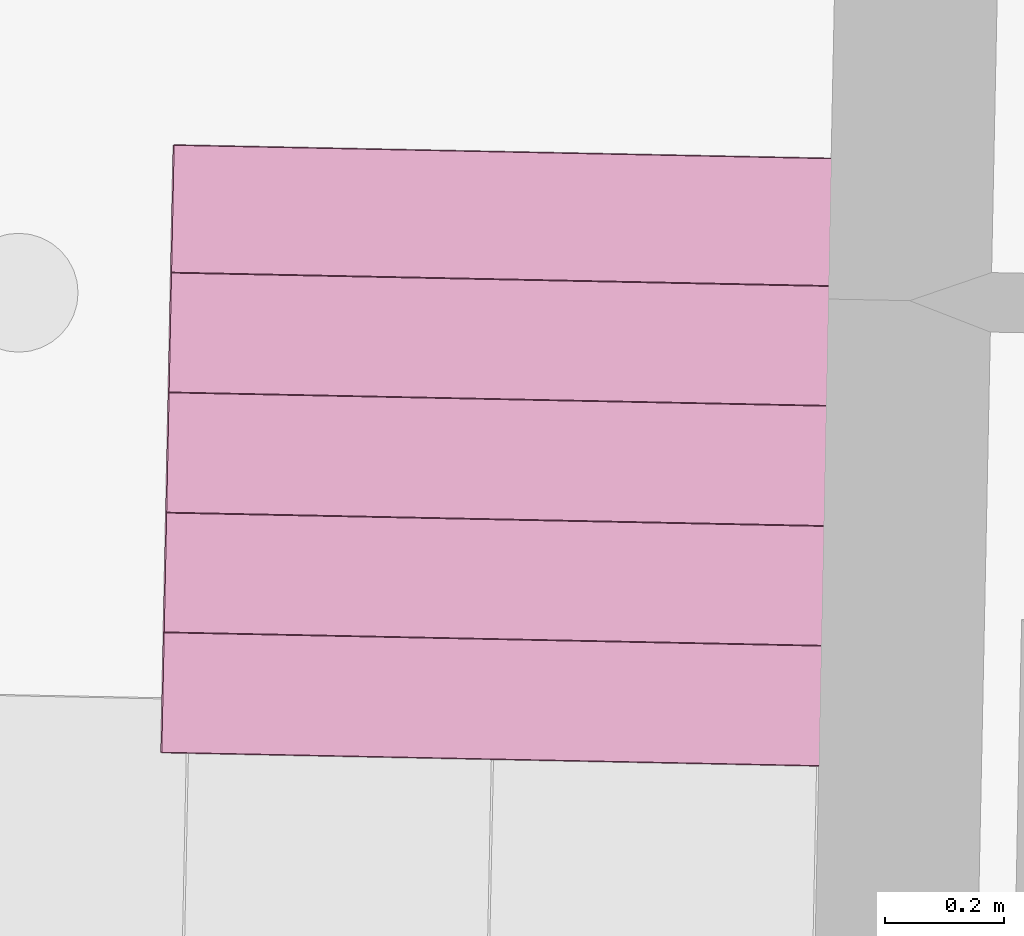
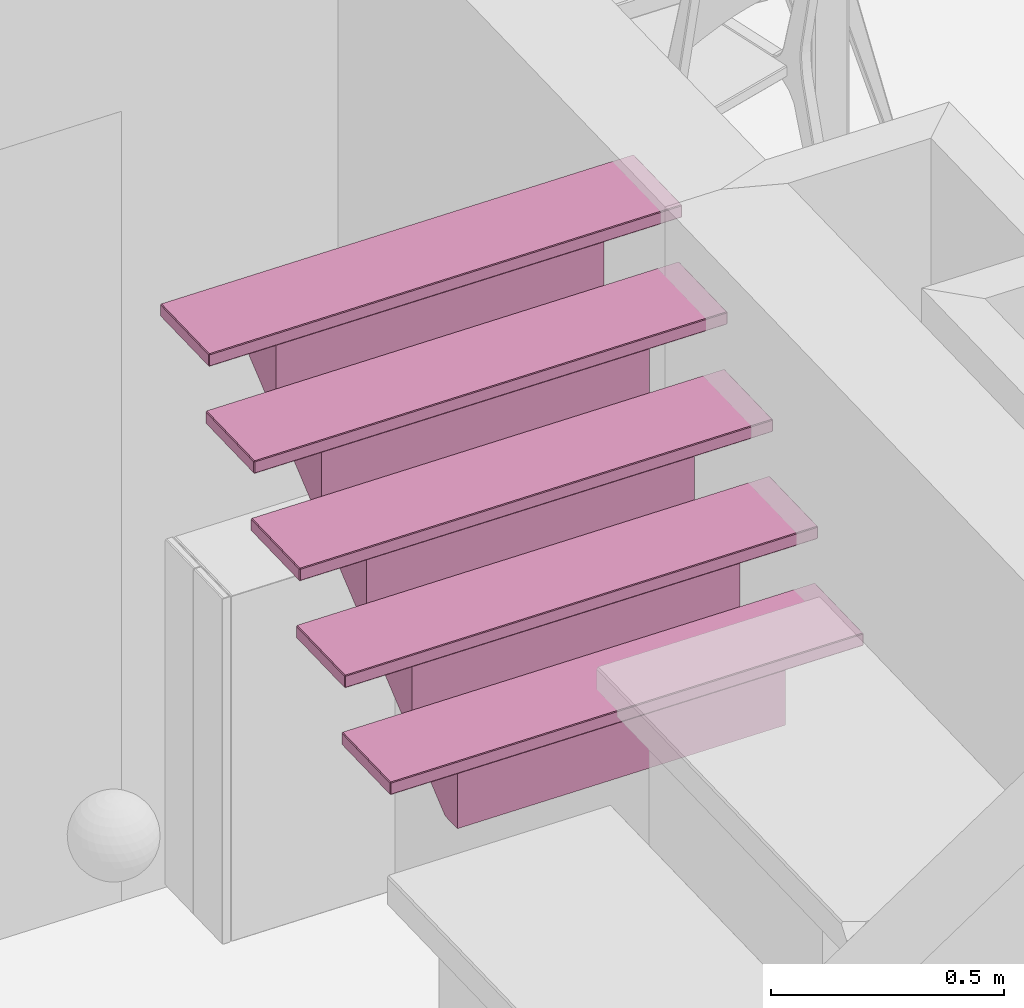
# One storey, part 4 of 8: 1 furnishing.
"""IFC2X3 building model written with IfcOpenShell, lengths in metres."""

from ifc_helpers import new_model, si_unit, frame, origin_with_axes, place, context, project, spatial, faceted_brep, type_object, element, save


model = new_model("IFC2X3")

# Units and contexts
model_context = context("Model", 3, precision=1e-05, world=origin_with_axes())
ifc_project = project(units=[si_unit("AREAUNIT", "SQUARE_METRE"), si_unit("LENGTHUNIT", "METRE")], contexts=[model_context])

# Site, building, storey, space
site_placement = place(None, origin_with_axes())
site = spatial("IfcSite", under=ifc_project, at=site_placement, Name="Site", CompositionType="ELEMENT")
building_placement = place(site_placement, origin_with_axes())
building = spatial("IfcBuilding", under=site, at=building_placement, Name="Building", CompositionType="ELEMENT")
storey_placement = place(building_placement, frame((0.0, 0.0, 2.8867046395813), z_axis=(0.0, 0.0, 1.0), x_axis=(1.0, 0.0, 0.0)))
storey = spatial("IfcBuildingStorey", under=building, at=storey_placement, Name="Story 1", CompositionType="ELEMENT", Elevation=2.8867045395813)
space_placement = place(storey_placement, frame((-5.69888454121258, -2.58056097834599, 0.0), z_axis=(0.0, 0.0, 1.0), x_axis=(1.0, 0.0, 0.0)))
space = spatial("IfcSpace", under=storey, at=space_placement, Name="009", CompositionType="ELEMENT", InteriorOrExteriorSpace="INTERNAL")

# Furnishing
furniture_type = type_object("IfcFurnitureType", Name="ebbc345f-75c7-47a5-aec1-dbdd7c84317c")
furnishing_placement = place(space_placement, frame((3.04485040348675, -0.346220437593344, 2.10144023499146), z_axis=(0.0, 0.0, 0.999999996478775), x_axis=(-0.0203696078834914, -0.999792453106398, 0.0)))
element("IfcFurnishingElement", 1, at=furnishing_placement, inside=space, type_object=furniture_type, Name="STAIRS", ObjectType="STAIRS", context=model_context, shape_type="Brep", body=[
    faceted_brep([(0.5117, 0.5785, -0.2218), (0.5117, -0.5785, -0.2218), (0.5117, 0.5785, -0.2507), (0.5117, -0.5785, -0.2507), (0.5117, 0.5785, -0.2507), (0.5117, -0.5785, -0.2218), (0.5103, -0.5806, -0.2218), (0.297, -0.5806, -0.2218), (0.5103, -0.5806, -0.2507), (0.297, -0.5806, -0.2507), (0.5103, -0.5806, -0.2507), (0.297, -0.5806, -0.2218), (0.2955, -0.5785, -0.2218), (0.2955, 0.5785, -0.2218), (0.2955, -0.5785, -0.2507), (0.2955, 0.5785, -0.2507), (0.2955, -0.5785, -0.2507), (0.2955, 0.5785, -0.2218), (0.297, 0.5806, -0.2218), (0.5103, 0.5806, -0.2218), (0.297, 0.5806, -0.2507), (0.5103, 0.5806, -0.2507), (0.297, 0.5806, -0.2507), (0.5103, 0.5806, -0.2218), (0.5103, -0.5785, -0.253), (0.297, -0.5785, -0.253), (0.5103, 0.5785, -0.253), (0.297, 0.5785, -0.253), (0.5103, 0.5785, -0.253), (0.297, -0.5785, -0.253), (0.5103, -0.5785, -0.2196), (0.5103, 0.5785, -0.2196), (0.297, -0.5785, -0.2196), (0.297, 0.5785, -0.2196), (0.297, -0.5785, -0.2196), (0.5103, 0.5785, -0.2196), (0.5103, 0.5806, -0.2507), (0.5117, 0.5785, -0.2507), (0.5103, 0.5785, -0.253), (0.5103, -0.5806, -0.2507), (0.5103, -0.5785, -0.253), (0.5117, -0.5785, -0.2507), (0.2955, -0.5785, -0.2507), (0.297, -0.5785, -0.253), (0.297, -0.5806, -0.2507), (0.2955, 0.5785, -0.2507), (0.297, 0.5806, -0.2507), (0.297, 0.5785, -0.253), (0.5103, 0.5785, -0.2196), (0.5117, 0.5785, -0.2218), (0.5103, 0.5806, -0.2218), (0.5103, -0.5785, -0.2196), (0.5103, -0.5806, -0.2218), (0.5117, -0.5785, -0.2218), (0.297, -0.5785, -0.2196), (0.2955, -0.5785, -0.2218), (0.297, -0.5806, -0.2218), (0.297, 0.5785, -0.2196), (0.297, 0.5806, -0.2218), (0.2955, 0.5785, -0.2218), (0.5103, 0.5785, -0.253), (0.5117, 0.5785, -0.2507), (0.5103, -0.5785, -0.253), (0.5117, -0.5785, -0.2507), (0.5103, -0.5785, -0.253), (0.5117, 0.5785, -0.2507), (0.5103, -0.5806, -0.2507), (0.5117, -0.5785, -0.2507), (0.5103, -0.5806, -0.2218), (0.5117, -0.5785, -0.2218), (0.5103, -0.5806, -0.2218), (0.5117, -0.5785, -0.2507), (0.5103, -0.5785, -0.2196), (0.5117, -0.5785, -0.2218), (0.5103, 0.5785, -0.2196), (0.5117, 0.5785, -0.2218), (0.5103, 0.5785, -0.2196), (0.5117, -0.5785, -0.2218), (0.5103, 0.5806, -0.2218), (0.5117, 0.5785, -0.2218), (0.5103, 0.5806, -0.2507), (0.5117, 0.5785, -0.2507), (0.5103, 0.5806, -0.2507), (0.5117, 0.5785, -0.2218), (0.5103, -0.5785, -0.253), (0.5103, -0.5806, -0.2507), (0.297, -0.5785, -0.253), (0.297, -0.5806, -0.2507), (0.297, -0.5785, -0.253), (0.5103, -0.5806, -0.2507), (0.2955, -0.5785, -0.2507), (0.297, -0.5806, -0.2507), (0.2955, -0.5785, -0.2218), (0.297, -0.5806, -0.2218), (0.2955, -0.5785, -0.2218), (0.297, -0.5806, -0.2507), (0.297, -0.5785, -0.2196), (0.297, -0.5806, -0.2218), (0.5103, -0.5785, -0.2196), (0.5103, -0.5806, -0.2218), (0.5103, -0.5785, -0.2196), (0.297, -0.5806, -0.2218), (0.297, -0.5785, -0.253), (0.2955, -0.5785, -0.2507), (0.297, 0.5785, -0.253), (0.2955, 0.5785, -0.2507), (0.297, 0.5785, -0.253), (0.2955, -0.5785, -0.2507), (0.297, 0.5806, -0.2507), (0.2955, 0.5785, -0.2507), (0.297, 0.5806, -0.2218), (0.2955, 0.5785, -0.2218), (0.297, 0.5806, -0.2218), (0.2955, 0.5785, -0.2507), (0.297, 0.5785, -0.2196), (0.2955, 0.5785, -0.2218), (0.297, -0.5785, -0.2196), (0.2955, -0.5785, -0.2218), (0.297, -0.5785, -0.2196), (0.2955, 0.5785, -0.2218), (0.297, 0.5785, -0.253), (0.297, 0.5806, -0.2507), (0.5103, 0.5785, -0.253), (0.5103, 0.5806, -0.2507), (0.5103, 0.5785, -0.253), (0.297, 0.5806, -0.2507), (0.5103, 0.5785, -0.2196), (0.5103, 0.5806, -0.2218), (0.297, 0.5785, -0.2196), (0.297, 0.5806, -0.2218), (0.297, 0.5785, -0.2196), (0.5103, 0.5806, -0.2218), (0.3094, 0.5785, -0.0658), (0.3094, -0.5785, -0.0658), (0.3094, 0.5785, -0.0947), (0.3094, -0.5785, -0.0947), (0.3094, 0.5785, -0.0947), (0.3094, -0.5785, -0.0658), (0.308, -0.5806, -0.0658), (0.0946, -0.5806, -0.0658), (0.308, -0.5806, -0.0947), (0.0946, -0.5806, -0.0947), (0.308, -0.5806, -0.0947), (0.0946, -0.5806, -0.0658), (0.0932, -0.5785, -0.0658), (0.0932, 0.5785, -0.0658), (0.0932, -0.5785, -0.0947), (0.0932, 0.5785, -0.0947), (0.0932, -0.5785, -0.0947), (0.0932, 0.5785, -0.0658), (0.0946, 0.5806, -0.0658), (0.308, 0.5806, -0.0658), (0.0946, 0.5806, -0.0947), (0.308, 0.5806, -0.0947), (0.0946, 0.5806, -0.0947), (0.308, 0.5806, -0.0658), (0.308, -0.5785, -0.0969), (0.0946, -0.5785, -0.0969), (0.308, 0.5785, -0.0969), (0.0946, 0.5785, -0.0969), (0.308, 0.5785, -0.0969), (0.0946, -0.5785, -0.0969), (0.308, -0.5785, -0.0636), (0.308, 0.5785, -0.0636), (0.0946, -0.5785, -0.0636), (0.0946, 0.5785, -0.0636), (0.0946, -0.5785, -0.0636), (0.308, 0.5785, -0.0636), (0.308, 0.5806, -0.0947), (0.3094, 0.5785, -0.0947), (0.308, 0.5785, -0.0969), (0.308, -0.5806, -0.0947), (0.308, -0.5785, -0.0969), (0.3094, -0.5785, -0.0947), (0.0932, -0.5785, -0.0947), (0.0946, -0.5785, -0.0969), (0.0946, -0.5806, -0.0947), (0.0932, 0.5785, -0.0947), (0.0946, 0.5806, -0.0947), (0.0946, 0.5785, -0.0969), (0.308, 0.5785, -0.0636), (0.3094, 0.5785, -0.0658), (0.308, 0.5806, -0.0658), (0.308, -0.5785, -0.0636), (0.308, -0.5806, -0.0658), (0.3094, -0.5785, -0.0658), (0.0946, -0.5785, -0.0636), (0.0932, -0.5785, -0.0658), (0.0946, -0.5806, -0.0658), (0.0946, 0.5785, -0.0636), (0.0946, 0.5806, -0.0658), (0.0932, 0.5785, -0.0658), (0.308, 0.5785, -0.0969), (0.3094, 0.5785, -0.0947), (0.308, -0.5785, -0.0969), (0.3094, -0.5785, -0.0947), (0.308, -0.5785, -0.0969), (0.3094, 0.5785, -0.0947), (0.308, -0.5806, -0.0947), (0.3094, -0.5785, -0.0947), (0.308, -0.5806, -0.0658), (0.3094, -0.5785, -0.0658), (0.308, -0.5806, -0.0658), (0.3094, -0.5785, -0.0947), (0.308, -0.5785, -0.0636), (0.3094, -0.5785, -0.0658), (0.308, 0.5785, -0.0636), (0.3094, 0.5785, -0.0658), (0.308, 0.5785, -0.0636), (0.3094, -0.5785, -0.0658), (0.308, 0.5806, -0.0658), (0.3094, 0.5785, -0.0658), (0.308, 0.5806, -0.0947), (0.3094, 0.5785, -0.0947), (0.308, 0.5806, -0.0947), (0.3094, 0.5785, -0.0658), (0.308, -0.5785, -0.0969), (0.308, -0.5806, -0.0947), (0.0946, -0.5785, -0.0969), (0.0946, -0.5806, -0.0947), (0.0946, -0.5785, -0.0969), (0.308, -0.5806, -0.0947), (0.0932, -0.5785, -0.0947), (0.0946, -0.5806, -0.0947), (0.0932, -0.5785, -0.0658), (0.0946, -0.5806, -0.0658), (0.0932, -0.5785, -0.0658), (0.0946, -0.5806, -0.0947), (0.0946, -0.5785, -0.0636), (0.0946, -0.5806, -0.0658), (0.308, -0.5785, -0.0636), (0.308, -0.5806, -0.0658), (0.308, -0.5785, -0.0636), (0.0946, -0.5806, -0.0658), (0.0946, -0.5785, -0.0969), (0.0932, -0.5785, -0.0947), (0.0946, 0.5785, -0.0969), (0.0932, 0.5785, -0.0947), (0.0946, 0.5785, -0.0969), (0.0932, -0.5785, -0.0947), (0.0946, 0.5806, -0.0947), (0.0932, 0.5785, -0.0947), (0.0946, 0.5806, -0.0658), (0.0932, 0.5785, -0.0658), (0.0946, 0.5806, -0.0658), (0.0932, 0.5785, -0.0947), (0.0946, 0.5785, -0.0636), (0.0932, 0.5785, -0.0658), (0.0946, -0.5785, -0.0636), (0.0932, -0.5785, -0.0658), (0.0946, -0.5785, -0.0636), (0.0932, 0.5785, -0.0658), (0.0946, 0.5785, -0.0969), (0.0946, 0.5806, -0.0947), (0.308, 0.5785, -0.0969), (0.308, 0.5806, -0.0947), (0.308, 0.5785, -0.0969), (0.0946, 0.5806, -0.0947), (0.308, 0.5785, -0.0636), (0.308, 0.5806, -0.0658), (0.0946, 0.5785, -0.0636), (0.0946, 0.5806, -0.0658), (0.0946, 0.5785, -0.0636), (0.308, 0.5806, -0.0658), (0.1081, 0.5785, 0.0912), (0.1081, -0.5785, 0.0912), (0.1081, 0.5785, 0.0623), (0.1081, -0.5785, 0.0623), (0.1081, 0.5785, 0.0623), (0.1081, -0.5785, 0.0912), (0.1066, -0.5806, 0.0912), (-0.1067, -0.5806, 0.0912), (0.1066, -0.5806, 0.0623), (-0.1067, -0.5806, 0.0623), (0.1066, -0.5806, 0.0623), (-0.1067, -0.5806, 0.0912), (-0.1081, -0.5785, 0.0912), (-0.1081, 0.5785, 0.0912), (-0.1081, -0.5785, 0.0623), (-0.1081, 0.5785, 0.0623), (-0.1081, -0.5785, 0.0623), (-0.1081, 0.5785, 0.0912), (-0.1067, 0.5806, 0.0912), (0.1066, 0.5806, 0.0912), (-0.1067, 0.5806, 0.0623), (0.1066, 0.5806, 0.0623), (-0.1067, 0.5806, 0.0623), (0.1066, 0.5806, 0.0912), (0.1066, -0.5785, 0.0601), (-0.1067, -0.5785, 0.0601), (0.1066, 0.5785, 0.0601), (-0.1067, 0.5785, 0.0601), (0.1066, 0.5785, 0.0601), (-0.1067, -0.5785, 0.0601), (0.1066, -0.5785, 0.0934), (0.1066, 0.5785, 0.0934), (-0.1067, -0.5785, 0.0934), (-0.1067, 0.5785, 0.0934), (-0.1067, -0.5785, 0.0934), (0.1066, 0.5785, 0.0934), (0.1066, 0.5806, 0.0623), (0.1081, 0.5785, 0.0623), (0.1066, 0.5785, 0.0601), (0.1066, -0.5806, 0.0623), (0.1066, -0.5785, 0.0601), (0.1081, -0.5785, 0.0623), (-0.1081, -0.5785, 0.0623), (-0.1067, -0.5785, 0.0601), (-0.1067, -0.5806, 0.0623), (-0.1081, 0.5785, 0.0623), (-0.1067, 0.5806, 0.0623), (-0.1067, 0.5785, 0.0601), (0.1066, 0.5785, 0.0934), (0.1081, 0.5785, 0.0912), (0.1066, 0.5806, 0.0912), (0.1066, -0.5785, 0.0934), (0.1066, -0.5806, 0.0912), (0.1081, -0.5785, 0.0912), (-0.1067, -0.5785, 0.0934), (-0.1081, -0.5785, 0.0912), (-0.1067, -0.5806, 0.0912), (-0.1067, 0.5785, 0.0934), (-0.1067, 0.5806, 0.0912), (-0.1081, 0.5785, 0.0912), (0.1066, 0.5785, 0.0601), (0.1081, 0.5785, 0.0623), (0.1066, -0.5785, 0.0601), (0.1081, -0.5785, 0.0623), (0.1066, -0.5785, 0.0601), (0.1081, 0.5785, 0.0623), (0.1066, -0.5806, 0.0623), (0.1081, -0.5785, 0.0623), (0.1066, -0.5806, 0.0912), (0.1081, -0.5785, 0.0912), (0.1066, -0.5806, 0.0912), (0.1081, -0.5785, 0.0623), (0.1066, -0.5785, 0.0934), (0.1081, -0.5785, 0.0912), (0.1066, 0.5785, 0.0934), (0.1081, 0.5785, 0.0912), (0.1066, 0.5785, 0.0934), (0.1081, -0.5785, 0.0912), (0.1066, 0.5806, 0.0912), (0.1081, 0.5785, 0.0912), (0.1066, 0.5806, 0.0623), (0.1081, 0.5785, 0.0623), (0.1066, 0.5806, 0.0623), (0.1081, 0.5785, 0.0912), (0.1066, -0.5785, 0.0601), (0.1066, -0.5806, 0.0623), (-0.1067, -0.5785, 0.0601), (-0.1067, -0.5806, 0.0623), (-0.1067, -0.5785, 0.0601), (0.1066, -0.5806, 0.0623), (-0.1081, -0.5785, 0.0623), (-0.1067, -0.5806, 0.0623), (-0.1081, -0.5785, 0.0912), (-0.1067, -0.5806, 0.0912), (-0.1081, -0.5785, 0.0912), (-0.1067, -0.5806, 0.0623), (-0.1067, -0.5785, 0.0934), (-0.1067, -0.5806, 0.0912), (0.1066, -0.5785, 0.0934), (0.1066, -0.5806, 0.0912), (0.1066, -0.5785, 0.0934), (-0.1067, -0.5806, 0.0912), (-0.1067, -0.5785, 0.0601), (-0.1081, -0.5785, 0.0623), (-0.1067, 0.5785, 0.0601), (-0.1081, 0.5785, 0.0623), (-0.1067, 0.5785, 0.0601), (-0.1081, -0.5785, 0.0623), (-0.1067, 0.5806, 0.0623), (-0.1081, 0.5785, 0.0623), (-0.1067, 0.5806, 0.0912), (-0.1081, 0.5785, 0.0912), (-0.1067, 0.5806, 0.0912), (-0.1081, 0.5785, 0.0623), (-0.1067, 0.5785, 0.0934), (-0.1081, 0.5785, 0.0912), (-0.1067, -0.5785, 0.0934), (-0.1081, -0.5785, 0.0912), (-0.1067, -0.5785, 0.0934), (-0.1081, 0.5785, 0.0912), (-0.1067, 0.5785, 0.0601), (-0.1067, 0.5806, 0.0623), (0.1066, 0.5785, 0.0601), (0.1066, 0.5806, 0.0623), (0.1066, 0.5785, 0.0601), (-0.1067, 0.5806, 0.0623), (0.1066, 0.5785, 0.0934), (0.1066, 0.5806, 0.0912), (-0.1067, 0.5785, 0.0934), (-0.1067, 0.5806, 0.0912), (-0.1067, 0.5785, 0.0934), (0.1066, 0.5806, 0.0912), (-0.0941, 0.5785, 0.2488), (-0.0941, -0.5785, 0.2488), (-0.0941, 0.5785, 0.2199), (-0.0941, -0.5785, 0.2199), (-0.0941, 0.5785, 0.2199), (-0.0941, -0.5785, 0.2488), (-0.0955, -0.5806, 0.2488), (-0.3089, -0.5806, 0.2488), (-0.0955, -0.5806, 0.2199), (-0.3089, -0.5806, 0.2199), (-0.0955, -0.5806, 0.2199), (-0.3089, -0.5806, 0.2488), (-0.3103, -0.5785, 0.2488), (-0.3103, 0.5785, 0.2488), (-0.3103, -0.5785, 0.2199), (-0.3103, 0.5785, 0.2199), (-0.3103, -0.5785, 0.2199), (-0.3103, 0.5785, 0.2488), (-0.3089, 0.5806, 0.2488), (-0.0955, 0.5806, 0.2488), (-0.3089, 0.5806, 0.2199), (-0.0955, 0.5806, 0.2199), (-0.3089, 0.5806, 0.2199), (-0.0955, 0.5806, 0.2488), (-0.0955, -0.5785, 0.2177), (-0.3089, -0.5785, 0.2177), (-0.0955, 0.5785, 0.2177), (-0.3089, 0.5785, 0.2177), (-0.0955, 0.5785, 0.2177), (-0.3089, -0.5785, 0.2177), (-0.0955, -0.5785, 0.251), (-0.0955, 0.5785, 0.251), (-0.3089, -0.5785, 0.251), (-0.3089, 0.5785, 0.251), (-0.3089, -0.5785, 0.251), (-0.0955, 0.5785, 0.251), (-0.0955, 0.5806, 0.2199), (-0.0941, 0.5785, 0.2199), (-0.0955, 0.5785, 0.2177), (-0.0955, -0.5806, 0.2199), (-0.0955, -0.5785, 0.2177), (-0.0941, -0.5785, 0.2199), (-0.3103, -0.5785, 0.2199), (-0.3089, -0.5785, 0.2177), (-0.3089, -0.5806, 0.2199), (-0.3103, 0.5785, 0.2199), (-0.3089, 0.5806, 0.2199), (-0.3089, 0.5785, 0.2177), (-0.0955, 0.5785, 0.251), (-0.0941, 0.5785, 0.2488), (-0.0955, 0.5806, 0.2488), (-0.0955, -0.5785, 0.251), (-0.0955, -0.5806, 0.2488), (-0.0941, -0.5785, 0.2488), (-0.3089, -0.5785, 0.251), (-0.3103, -0.5785, 0.2488), (-0.3089, -0.5806, 0.2488), (-0.3089, 0.5785, 0.251), (-0.3089, 0.5806, 0.2488), (-0.3103, 0.5785, 0.2488), (-0.0955, 0.5785, 0.2177), (-0.0941, 0.5785, 0.2199), (-0.0955, -0.5785, 0.2177), (-0.0941, -0.5785, 0.2199), (-0.0955, -0.5785, 0.2177), (-0.0941, 0.5785, 0.2199), (-0.0955, -0.5806, 0.2199), (-0.0941, -0.5785, 0.2199), (-0.0955, -0.5806, 0.2488), (-0.0941, -0.5785, 0.2488), (-0.0955, -0.5806, 0.2488), (-0.0941, -0.5785, 0.2199), (-0.0955, -0.5785, 0.251), (-0.0941, -0.5785, 0.2488), (-0.0955, 0.5785, 0.251), (-0.0941, 0.5785, 0.2488), (-0.0955, 0.5785, 0.251), (-0.0941, -0.5785, 0.2488), (-0.0955, 0.5806, 0.2488), (-0.0941, 0.5785, 0.2488), (-0.0955, 0.5806, 0.2199), (-0.0941, 0.5785, 0.2199), (-0.0955, 0.5806, 0.2199), (-0.0941, 0.5785, 0.2488), (-0.0955, -0.5785, 0.2177), (-0.0955, -0.5806, 0.2199), (-0.3089, -0.5785, 0.2177), (-0.3089, -0.5806, 0.2199), (-0.3089, -0.5785, 0.2177), (-0.0955, -0.5806, 0.2199), (-0.3103, -0.5785, 0.2199), (-0.3089, -0.5806, 0.2199), (-0.3103, -0.5785, 0.2488), (-0.3089, -0.5806, 0.2488), (-0.3103, -0.5785, 0.2488), (-0.3089, -0.5806, 0.2199), (-0.3089, -0.5785, 0.251), (-0.3089, -0.5806, 0.2488), (-0.0955, -0.5785, 0.251), (-0.0955, -0.5806, 0.2488), (-0.0955, -0.5785, 0.251), (-0.3089, -0.5806, 0.2488), (-0.3089, -0.5785, 0.2177), (-0.3103, -0.5785, 0.2199), (-0.3089, 0.5785, 0.2177), (-0.3103, 0.5785, 0.2199), (-0.3089, 0.5785, 0.2177), (-0.3103, -0.5785, 0.2199), (-0.3089, 0.5806, 0.2199), (-0.3103, 0.5785, 0.2199), (-0.3089, 0.5806, 0.2488), (-0.3103, 0.5785, 0.2488), (-0.3089, 0.5806, 0.2488), (-0.3103, 0.5785, 0.2199), (-0.3089, 0.5785, 0.251), (-0.3103, 0.5785, 0.2488), (-0.3089, -0.5785, 0.251), (-0.3103, -0.5785, 0.2488), (-0.3089, -0.5785, 0.251), (-0.3103, 0.5785, 0.2488), (-0.3089, 0.5785, 0.2177), (-0.3089, 0.5806, 0.2199), (-0.0955, 0.5785, 0.2177), (-0.0955, 0.5806, 0.2199), (-0.0955, 0.5785, 0.2177), (-0.3089, 0.5806, 0.2199), (-0.0955, 0.5785, 0.251), (-0.0955, 0.5806, 0.2488), (-0.3089, 0.5785, 0.251), (-0.3089, 0.5806, 0.2488), (-0.3089, 0.5785, 0.251), (-0.0955, 0.5806, 0.2488), (-0.2955, 0.5785, 0.4059), (-0.2955, -0.5785, 0.4059), (-0.2955, 0.5785, 0.377), (-0.2955, -0.5785, 0.377), (-0.2955, 0.5785, 0.377), (-0.2955, -0.5785, 0.4059), (-0.297, -0.5806, 0.4059), (-0.5103, -0.5806, 0.4059), (-0.297, -0.5806, 0.377), (-0.5103, -0.5806, 0.377), (-0.297, -0.5806, 0.377), (-0.5103, -0.5806, 0.4059), (-0.5117, -0.5785, 0.4059), (-0.5117, 0.5785, 0.4059), (-0.5117, -0.5785, 0.377), (-0.5117, 0.5785, 0.377), (-0.5117, -0.5785, 0.377), (-0.5117, 0.5785, 0.4059), (-0.5103, 0.5806, 0.4059), (-0.297, 0.5806, 0.4059), (-0.5103, 0.5806, 0.377), (-0.297, 0.5806, 0.377), (-0.5103, 0.5806, 0.377), (-0.297, 0.5806, 0.4059), (-0.297, -0.5785, 0.3747), (-0.5103, -0.5785, 0.3747), (-0.297, 0.5785, 0.3747), (-0.5103, 0.5785, 0.3747), (-0.297, 0.5785, 0.3747), (-0.5103, -0.5785, 0.3747), (-0.297, -0.5785, 0.4081), (-0.297, 0.5785, 0.4081), (-0.5103, -0.5785, 0.4081), (-0.5103, 0.5785, 0.4081), (-0.5103, -0.5785, 0.4081), (-0.297, 0.5785, 0.4081), (-0.297, 0.5806, 0.377), (-0.2955, 0.5785, 0.377), (-0.297, 0.5785, 0.3747), (-0.297, -0.5806, 0.377), (-0.297, -0.5785, 0.3747), (-0.2955, -0.5785, 0.377), (-0.5117, -0.5785, 0.377), (-0.5103, -0.5785, 0.3747), (-0.5103, -0.5806, 0.377), (-0.5117, 0.5785, 0.377), (-0.5103, 0.5806, 0.377), (-0.5103, 0.5785, 0.3747), (-0.297, 0.5785, 0.4081), (-0.2955, 0.5785, 0.4059), (-0.297, 0.5806, 0.4059), (-0.297, -0.5785, 0.4081), (-0.297, -0.5806, 0.4059), (-0.2955, -0.5785, 0.4059), (-0.5103, -0.5785, 0.4081), (-0.5117, -0.5785, 0.4059), (-0.5103, -0.5806, 0.4059), (-0.5103, 0.5785, 0.4081), (-0.5103, 0.5806, 0.4059), (-0.5117, 0.5785, 0.4059), (-0.297, 0.5785, 0.3747), (-0.2955, 0.5785, 0.377), (-0.297, -0.5785, 0.3747), (-0.2955, -0.5785, 0.377), (-0.297, -0.5785, 0.3747), (-0.2955, 0.5785, 0.377), (-0.297, -0.5806, 0.377), (-0.2955, -0.5785, 0.377), (-0.297, -0.5806, 0.4059), (-0.2955, -0.5785, 0.4059), (-0.297, -0.5806, 0.4059), (-0.2955, -0.5785, 0.377), (-0.297, -0.5785, 0.4081), (-0.2955, -0.5785, 0.4059), (-0.297, 0.5785, 0.4081), (-0.2955, 0.5785, 0.4059), (-0.297, 0.5785, 0.4081), (-0.2955, -0.5785, 0.4059), (-0.297, 0.5806, 0.4059), (-0.2955, 0.5785, 0.4059), (-0.297, 0.5806, 0.377), (-0.2955, 0.5785, 0.377), (-0.297, 0.5806, 0.377), (-0.2955, 0.5785, 0.4059), (-0.297, -0.5785, 0.3747), (-0.297, -0.5806, 0.377), (-0.5103, -0.5785, 0.3747), (-0.5103, -0.5806, 0.377), (-0.5103, -0.5785, 0.3747), (-0.297, -0.5806, 0.377), (-0.5117, -0.5785, 0.377), (-0.5103, -0.5806, 0.377), (-0.5117, -0.5785, 0.4059), (-0.5103, -0.5806, 0.4059), (-0.5117, -0.5785, 0.4059), (-0.5103, -0.5806, 0.377), (-0.5103, -0.5785, 0.4081), (-0.5103, -0.5806, 0.4059), (-0.297, -0.5785, 0.4081), (-0.297, -0.5806, 0.4059), (-0.297, -0.5785, 0.4081), (-0.5103, -0.5806, 0.4059), (-0.5103, -0.5785, 0.3747), (-0.5117, -0.5785, 0.377), (-0.5103, 0.5785, 0.3747), (-0.5117, 0.5785, 0.377), (-0.5103, 0.5785, 0.3747), (-0.5117, -0.5785, 0.377), (-0.5103, 0.5806, 0.377), (-0.5117, 0.5785, 0.377), (-0.5103, 0.5806, 0.4059), (-0.5117, 0.5785, 0.4059), (-0.5103, 0.5806, 0.4059), (-0.5117, 0.5785, 0.377), (-0.5103, 0.5785, 0.4081), (-0.5117, 0.5785, 0.4059), (-0.5103, -0.5785, 0.4081), (-0.5117, -0.5785, 0.4059), (-0.5103, -0.5785, 0.4081), (-0.5117, 0.5785, 0.4059), (-0.5103, 0.5785, 0.3747), (-0.5103, 0.5806, 0.377), (-0.297, 0.5785, 0.3747), (-0.297, 0.5806, 0.377), (-0.297, 0.5785, 0.3747), (-0.5103, 0.5806, 0.377), (-0.297, 0.5785, 0.4081), (-0.297, 0.5806, 0.4059), (-0.5103, 0.5785, 0.4081), (-0.5103, 0.5806, 0.4059), (-0.5103, 0.5785, 0.4081), (-0.297, 0.5806, 0.4059), (0.4968, 0.3461, -0.2528), (0.4968, 0.3461, -0.4081), (0.4968, 0.3964, -0.2528), (0.4968, 0.3964, -0.4081), (0.4968, 0.3964, -0.2528), (0.4968, 0.3461, -0.4081), (0.295, 0.3461, -0.2528), (0.4968, 0.3461, -0.2528), (0.295, 0.3964, -0.2528), (0.4968, 0.3964, -0.2528), (0.295, 0.3964, -0.2528), (0.4968, 0.3461, -0.2528), (0.295, 0.3461, -0.0961), (0.295, 0.3461, -0.2528), (0.295, 0.3964, -0.0961), (0.295, 0.3964, -0.2528), (0.295, 0.3964, -0.0961), (0.295, 0.3461, -0.2528), (0.0932, 0.3461, -0.0961), (0.295, 0.3461, -0.0961), (0.0932, 0.3964, -0.0961), (0.295, 0.3964, -0.0961), (0.0932, 0.3964, -0.0961), (0.295, 0.3461, -0.0961), (0.0932, 0.3461, 0.0605), (0.0932, 0.3461, -0.0961), (0.0932, 0.3964, 0.0605), (0.0932, 0.3964, -0.0961), (0.0932, 0.3964, 0.0605), (0.0932, 0.3461, -0.0961), (-0.1086, 0.3461, 0.0605), (0.0932, 0.3461, 0.0605), (-0.1086, 0.3964, 0.0605), (0.0932, 0.3964, 0.0605), (-0.1086, 0.3964, 0.0605), (0.0932, 0.3461, 0.0605), (-0.1086, 0.3461, 0.2172), (-0.1086, 0.3461, 0.0605), (-0.1086, 0.3964, 0.2172), (-0.1086, 0.3964, 0.0605), (-0.1086, 0.3964, 0.2172), (-0.1086, 0.3461, 0.0605), (-0.3104, 0.3461, 0.2172), (-0.1086, 0.3461, 0.2172), (-0.3104, 0.3964, 0.2172), (-0.1086, 0.3964, 0.2172), (-0.3104, 0.3964, 0.2172), (-0.1086, 0.3461, 0.2172), (-0.3104, 0.3461, 0.3738), (-0.3104, 0.3461, 0.2172), (-0.3104, 0.3964, 0.3738), (-0.3104, 0.3964, 0.2172), (-0.3104, 0.3964, 0.3738), (-0.3104, 0.3461, 0.2172), (-0.5049, 0.3461, 0.3738), (-0.3104, 0.3461, 0.3738), (-0.5049, 0.3964, 0.3738), (-0.3104, 0.3964, 0.3738), (-0.5049, 0.3964, 0.3738), (-0.3104, 0.3461, 0.3738), (0.4968, -0.4075, -0.2528), (0.4968, -0.4075, -0.4081), (0.4968, -0.3573, -0.2528), (0.4968, -0.3573, -0.4081), (0.4968, -0.3573, -0.2528), (0.4968, -0.4075, -0.4081), (0.295, -0.4075, -0.2528), (0.4968, -0.4075, -0.2528), (0.295, -0.3573, -0.2528), (0.4968, -0.3573, -0.2528), (0.295, -0.3573, -0.2528), (0.4968, -0.4075, -0.2528), (0.295, -0.4075, -0.0961), (0.295, -0.4075, -0.2528), (0.295, -0.3573, -0.0961), (0.295, -0.3573, -0.2528), (0.295, -0.3573, -0.0961), (0.295, -0.4075, -0.2528), (0.0932, -0.4075, -0.0961), (0.295, -0.4075, -0.0961), (0.0932, -0.3573, -0.0961), (0.295, -0.3573, -0.0961), (0.0932, -0.3573, -0.0961), (0.295, -0.4075, -0.0961), (0.0932, -0.4075, 0.0605), (0.0932, -0.4075, -0.0961), (0.0932, -0.3573, 0.0605), (0.0932, -0.3573, -0.0961), (0.0932, -0.3573, 0.0605), (0.0932, -0.4075, -0.0961), (-0.1086, -0.4075, 0.0605), (0.0932, -0.4075, 0.0605), (-0.1086, -0.3573, 0.0605), (0.0932, -0.3573, 0.0605), (-0.1086, -0.3573, 0.0605), (0.0932, -0.4075, 0.0605), (-0.1086, -0.4075, 0.2172), (-0.1086, -0.4075, 0.0605), (-0.1086, -0.3573, 0.2172), (-0.1086, -0.3573, 0.0605), (-0.1086, -0.3573, 0.2172), (-0.1086, -0.4075, 0.0605), (-0.3104, -0.4075, 0.2172), (-0.1086, -0.4075, 0.2172), (-0.3104, -0.3573, 0.2172), (-0.1086, -0.3573, 0.2172), (-0.3104, -0.3573, 0.2172), (-0.1086, -0.4075, 0.2172), (-0.3104, -0.4075, 0.3738), (-0.3104, -0.4075, 0.2172), (-0.3104, -0.3573, 0.3738), (-0.3104, -0.3573, 0.2172), (-0.3104, -0.3573, 0.3738), (-0.3104, -0.4075, 0.2172), (-0.5049, -0.4075, 0.3738), (-0.3104, -0.4075, 0.3738), (-0.5049, -0.3573, 0.3738), (-0.3104, -0.3573, 0.3738), (-0.5049, -0.3573, 0.3738), (-0.3104, -0.4075, 0.3738), (0.4426, 0.3964, -0.4081), (0.4426, 0.3461, -0.4081), (-0.5049, 0.3964, 0.3214), (-0.5049, 0.3461, 0.3214), (-0.5049, 0.3964, 0.3214), (0.4426, 0.3461, -0.4081), (0.4426, -0.3573, -0.4081), (0.4426, -0.4075, -0.4081), (-0.5049, -0.3573, 0.3214), (-0.5049, -0.4075, 0.3214), (-0.5049, -0.3573, 0.3214), (0.4426, -0.4075, -0.4081), (0.4426, 0.3964, -0.4081), (0.4968, 0.3964, -0.4081), (0.4426, 0.3461, -0.4081), (0.4968, 0.3461, -0.4081), (0.4426, 0.3461, -0.4081), (0.4968, 0.3964, -0.4081), (-0.5049, 0.3964, 0.3214), (-0.5049, 0.3461, 0.3214), (-0.5049, 0.3964, 0.3738), (-0.5049, 0.3461, 0.3738), (-0.5049, 0.3964, 0.3738), (-0.5049, 0.3461, 0.3214), (0.4426, -0.4075, -0.4081), (0.4426, -0.3573, -0.4081), (0.4968, -0.4075, -0.4081), (0.4968, -0.3573, -0.4081), (0.4968, -0.4075, -0.4081), (0.4426, -0.3573, -0.4081), (-0.5049, -0.3573, 0.3214), (-0.5049, -0.4075, 0.3214), (-0.5049, -0.3573, 0.3738), (-0.5049, -0.4075, 0.3738), (-0.5049, -0.3573, 0.3738), (-0.5049, -0.4075, 0.3214), (-0.3104, 0.3461, 0.3738), (-0.5049, 0.3461, 0.3738), (-0.3104, -0.3573, 0.3738), (-0.5049, -0.3573, 0.3738), (-0.3104, -0.3573, 0.3738), (-0.5049, 0.3461, 0.3738), (-0.3104, 0.3461, 0.2172), (-0.3104, 0.3461, 0.3738), (-0.3104, -0.3573, 0.2172), (-0.3104, -0.3573, 0.3738), (-0.3104, -0.3573, 0.2172), (-0.3104, 0.3461, 0.3738), (-0.1086, 0.3461, 0.2172), (-0.3104, 0.3461, 0.2172), (-0.1086, -0.3573, 0.2172), (-0.3104, -0.3573, 0.2172), (-0.1086, -0.3573, 0.2172), (-0.3104, 0.3461, 0.2172), (-0.1086, 0.3461, 0.0605), (-0.1086, 0.3461, 0.2172), (-0.1086, -0.3573, 0.0605), (-0.1086, -0.3573, 0.2172), (-0.1086, -0.3573, 0.0605), (-0.1086, 0.3461, 0.2172), (0.0932, 0.3461, 0.0605), (-0.1086, 0.3461, 0.0605), (0.0932, -0.3573, 0.0605), (-0.1086, -0.3573, 0.0605), (0.0932, -0.3573, 0.0605), (-0.1086, 0.3461, 0.0605), (0.0932, 0.3461, -0.0961), (0.0932, 0.3461, 0.0605), (0.0932, -0.3573, -0.0961), (0.0932, -0.3573, 0.0605), (0.0932, -0.3573, -0.0961), (0.0932, 0.3461, 0.0605), (0.295, 0.3461, -0.0961), (0.0932, 0.3461, -0.0961), (0.295, -0.3573, -0.0961), (0.0932, -0.3573, -0.0961), (0.295, -0.3573, -0.0961), (0.0932, 0.3461, -0.0961), (0.295, 0.3461, -0.2528), (0.295, 0.3461, -0.0961), (0.295, -0.3573, -0.2528), (0.295, -0.3573, -0.0961), (0.295, -0.3573, -0.2528), (0.295, 0.3461, -0.0961), (0.4968, 0.3461, -0.2528), (0.295, 0.3461, -0.2528), (0.4968, -0.3573, -0.2528), (0.295, -0.3573, -0.2528), (0.4968, -0.3573, -0.2528), (0.295, 0.3461, -0.2528), (0.4968, 0.3461, -0.4081), (0.4968, 0.3461, -0.2528), (0.4968, -0.3573, -0.4081), (0.4968, -0.3573, -0.2528), (0.4968, -0.3573, -0.4081), (0.4968, 0.3461, -0.2528), (0.4426, -0.3573, -0.4081), (0.4426, 0.3461, -0.4081), (0.4968, -0.3573, -0.4081), (0.4968, 0.3461, -0.4081), (0.4968, -0.3573, -0.4081), (0.4426, 0.3461, -0.4081), (-0.5049, 0.3461, 0.3214), (0.4426, 0.3461, -0.4081), (-0.5049, -0.3573, 0.3214), (0.4426, -0.3573, -0.4081), (-0.5049, -0.3573, 0.3214), (0.4426, 0.3461, -0.4081), (-0.5049, -0.4075, 0.3738), (-0.5049, -0.4075, 0.3214), (-0.3104, -0.4075, 0.3738), (-0.3104, -0.4075, 0.3738), (-0.5049, -0.4075, 0.3214), (-0.3104, -0.4075, 0.2172), (-0.1086, -0.4075, 0.2172), (-0.3104, -0.4075, 0.2172), (-0.1086, -0.4075, 0.0605), (-0.3104, -0.4075, 0.2172), (-0.5049, -0.4075, 0.3214), (-0.1086, -0.4075, 0.0605), (0.0932, -0.4075, 0.0605), (-0.1086, -0.4075, 0.0605), (0.0932, -0.4075, -0.0961), (0.295, -0.4075, -0.0961), (0.0932, -0.4075, -0.0961), (0.295, -0.4075, -0.2528), (0.0932, -0.4075, -0.0961), (-0.1086, -0.4075, 0.0605), (0.295, -0.4075, -0.2528), (-0.1086, -0.4075, 0.0605), (-0.5049, -0.4075, 0.3214), (0.295, -0.4075, -0.2528), (0.4968, -0.4075, -0.2528), (0.295, -0.4075, -0.2528), (0.4968, -0.4075, -0.4081), (0.295, -0.4075, -0.2528), (-0.5049, -0.4075, 0.3214), (0.4968, -0.4075, -0.4081), (0.4968, -0.4075, -0.4081), (-0.5049, -0.4075, 0.3214), (0.4426, -0.4075, -0.4081), (0.4968, 0.3964, -0.4081), (0.4426, 0.3964, -0.4081), (0.4968, 0.3964, -0.2528), (0.4968, 0.3964, -0.2528), (0.4426, 0.3964, -0.4081), (0.295, 0.3964, -0.2528), (0.295, 0.3964, -0.0961), (0.295, 0.3964, -0.2528), (0.0932, 0.3964, -0.0961), (0.295, 0.3964, -0.2528), (0.4426, 0.3964, -0.4081), (0.0932, 0.3964, -0.0961), (0.0932, 0.3964, 0.0605), (0.0932, 0.3964, -0.0961), (-0.1086, 0.3964, 0.0605), (0.0932, 0.3964, -0.0961), (0.4426, 0.3964, -0.4081), (-0.1086, 0.3964, 0.0605), (-0.1086, 0.3964, 0.2172), (-0.1086, 0.3964, 0.0605), (-0.3104, 0.3964, 0.2172), (-0.1086, 0.3964, 0.0605), (0.4426, 0.3964, -0.4081), (-0.3104, 0.3964, 0.2172), (-0.3104, 0.3964, 0.3738), (-0.3104, 0.3964, 0.2172), (-0.5049, 0.3964, 0.3738), (-0.3104, 0.3964, 0.2172), (0.4426, 0.3964, -0.4081), (-0.5049, 0.3964, 0.3738), (-0.5049, 0.3964, 0.3738), (0.4426, 0.3964, -0.4081), (-0.5049, 0.3964, 0.3214), (-0.5049, -0.3573, 0.3738), (-0.5049, 0.3461, 0.3738), (-0.5049, -0.3573, 0.3214), (-0.5049, 0.3461, 0.3214), (-0.5049, -0.3573, 0.3214), (-0.5049, 0.3461, 0.3738)], [[[0, 1, 2]], [[3, 4, 5]], [[6, 7, 8]], [[9, 10, 11]], [[12, 13, 14]], [[15, 16, 17]], [[18, 19, 20]], [[21, 22, 23]], [[24, 25, 26]], [[27, 28, 29]], [[30, 31, 32]], [[33, 34, 35]], [[36, 37, 38]], [[39, 40, 41]], [[42, 43, 44]], [[45, 46, 47]], [[48, 49, 50]], [[51, 52, 53]], [[54, 55, 56]], [[57, 58, 59]], [[60, 61, 62]], [[63, 64, 65]], [[66, 67, 68]], [[69, 70, 71]], [[72, 73, 74]], [[75, 76, 77]], [[78, 79, 80]], [[81, 82, 83]], [[84, 85, 86]], [[87, 88, 89]], [[90, 91, 92]], [[93, 94, 95]], [[96, 97, 98]], [[99, 100, 101]], [[102, 103, 104]], [[105, 106, 107]], [[108, 109, 110]], [[111, 112, 113]], [[114, 115, 116]], [[117, 118, 119]], [[120, 121, 122]], [[123, 124, 125]], [[126, 127, 128]], [[129, 130, 131]], [[132, 133, 134]], [[135, 136, 137]], [[138, 139, 140]], [[141, 142, 143]], [[144, 145, 146]], [[147, 148, 149]], [[150, 151, 152]], [[153, 154, 155]], [[156, 157, 158]], [[159, 160, 161]], [[162, 163, 164]], [[165, 166, 167]], [[168, 169, 170]], [[171, 172, 173]], [[174, 175, 176]], [[177, 178, 179]], [[180, 181, 182]], [[183, 184, 185]], [[186, 187, 188]], [[189, 190, 191]], [[192, 193, 194]], [[195, 196, 197]], [[198, 199, 200]], [[201, 202, 203]], [[204, 205, 206]], [[207, 208, 209]], [[210, 211, 212]], [[213, 214, 215]], [[216, 217, 218]], [[219, 220, 221]], [[222, 223, 224]], [[225, 226, 227]], [[228, 229, 230]], [[231, 232, 233]], [[234, 235, 236]], [[237, 238, 239]], [[240, 241, 242]], [[243, 244, 245]], [[246, 247, 248]], [[249, 250, 251]], [[252, 253, 254]], [[255, 256, 257]], [[258, 259, 260]], [[261, 262, 263]], [[264, 265, 266]], [[267, 268, 269]], [[270, 271, 272]], [[273, 274, 275]], [[276, 277, 278]], [[279, 280, 281]], [[282, 283, 284]], [[285, 286, 287]], [[288, 289, 290]], [[291, 292, 293]], [[294, 295, 296]], [[297, 298, 299]], [[300, 301, 302]], [[303, 304, 305]], [[306, 307, 308]], [[309, 310, 311]], [[312, 313, 314]], [[315, 316, 317]], [[318, 319, 320]], [[321, 322, 323]], [[324, 325, 326]], [[327, 328, 329]], [[330, 331, 332]], [[333, 334, 335]], [[336, 337, 338]], [[339, 340, 341]], [[342, 343, 344]], [[345, 346, 347]], [[348, 349, 350]], [[351, 352, 353]], [[354, 355, 356]], [[357, 358, 359]], [[360, 361, 362]], [[363, 364, 365]], [[366, 367, 368]], [[369, 370, 371]], [[372, 373, 374]], [[375, 376, 377]], [[378, 379, 380]], [[381, 382, 383]], [[384, 385, 386]], [[387, 388, 389]], [[390, 391, 392]], [[393, 394, 395]], [[396, 397, 398]], [[399, 400, 401]], [[402, 403, 404]], [[405, 406, 407]], [[408, 409, 410]], [[411, 412, 413]], [[414, 415, 416]], [[417, 418, 419]], [[420, 421, 422]], [[423, 424, 425]], [[426, 427, 428]], [[429, 430, 431]], [[432, 433, 434]], [[435, 436, 437]], [[438, 439, 440]], [[441, 442, 443]], [[444, 445, 446]], [[447, 448, 449]], [[450, 451, 452]], [[453, 454, 455]], [[456, 457, 458]], [[459, 460, 461]], [[462, 463, 464]], [[465, 466, 467]], [[468, 469, 470]], [[471, 472, 473]], [[474, 475, 476]], [[477, 478, 479]], [[480, 481, 482]], [[483, 484, 485]], [[486, 487, 488]], [[489, 490, 491]], [[492, 493, 494]], [[495, 496, 497]], [[498, 499, 500]], [[501, 502, 503]], [[504, 505, 506]], [[507, 508, 509]], [[510, 511, 512]], [[513, 514, 515]], [[516, 517, 518]], [[519, 520, 521]], [[522, 523, 524]], [[525, 526, 527]], [[528, 529, 530]], [[531, 532, 533]], [[534, 535, 536]], [[537, 538, 539]], [[540, 541, 542]], [[543, 544, 545]], [[546, 547, 548]], [[549, 550, 551]], [[552, 553, 554]], [[555, 556, 557]], [[558, 559, 560]], [[561, 562, 563]], [[564, 565, 566]], [[567, 568, 569]], [[570, 571, 572]], [[573, 574, 575]], [[576, 577, 578]], [[579, 580, 581]], [[582, 583, 584]], [[585, 586, 587]], [[588, 589, 590]], [[591, 592, 593]], [[594, 595, 596]], [[597, 598, 599]], [[600, 601, 602]], [[603, 604, 605]], [[606, 607, 608]], [[609, 610, 611]], [[612, 613, 614]], [[615, 616, 617]], [[618, 619, 620]], [[621, 622, 623]], [[624, 625, 626]], [[627, 628, 629]], [[630, 631, 632]], [[633, 634, 635]], [[636, 637, 638]], [[639, 640, 641]], [[642, 643, 644]], [[645, 646, 647]], [[648, 649, 650]], [[651, 652, 653]], [[654, 655, 656]], [[657, 658, 659]], [[660, 661, 662]], [[663, 664, 665]], [[666, 667, 668]], [[669, 670, 671]], [[672, 673, 674]], [[675, 676, 677]], [[678, 679, 680]], [[681, 682, 683]], [[684, 685, 686]], [[687, 688, 689]], [[690, 691, 692]], [[693, 694, 695]], [[696, 697, 698]], [[699, 700, 701]], [[702, 703, 704]], [[705, 706, 707]], [[708, 709, 710]], [[711, 712, 713]], [[714, 715, 716]], [[717, 718, 719]], [[720, 721, 722]], [[723, 724, 725]], [[726, 727, 728]], [[729, 730, 731]], [[732, 733, 734]], [[735, 736, 737]], [[738, 739, 740]], [[741, 742, 743]], [[744, 745, 746]], [[747, 748, 749]], [[750, 751, 752]], [[753, 754, 755]], [[756, 757, 758]], [[759, 760, 761]], [[762, 763, 764]], [[765, 766, 767]], [[768, 769, 770]], [[771, 772, 773]], [[774, 775, 776]], [[777, 778, 779]], [[780, 781, 782]], [[783, 784, 785]], [[786, 787, 788]], [[789, 790, 791]], [[792, 793, 794]], [[795, 796, 797]], [[798, 799, 800]], [[801, 802, 803]], [[804, 805, 806]], [[807, 808, 809]], [[810, 811, 812]], [[813, 814, 815]], [[816, 817, 818]], [[819, 820, 821]], [[822, 823, 824]], [[825, 826, 827]], [[828, 829, 830]], [[831, 832, 833]], [[834, 835, 836]], [[837, 838, 839]], [[840, 841, 842]], [[843, 844, 845]], [[846, 847, 848]], [[849, 850, 851]], [[852, 853, 854]], [[855, 856, 857]], [[858, 859, 860]], [[861, 862, 863]], [[864, 865, 866]], [[867, 868, 869]], [[870, 871, 872]], [[873, 874, 875]], [[876, 877, 878]], [[879, 880, 881]], [[882, 883, 884]], [[885, 886, 887]], [[888, 889, 890]], [[891, 892, 893]], [[894, 895, 896]], [[897, 898, 899]], [[900, 901, 902]], [[903, 904, 905]], [[906, 907, 908]], [[909, 910, 911]], [[912, 913, 914]], [[915, 916, 917]], [[918, 919, 920]], [[921, 922, 923]], [[924, 925, 926]], [[927, 928, 929]], [[930, 931, 932]], [[933, 934, 935]], [[936, 937, 938]], [[939, 940, 941]], [[942, 943, 944]], [[945, 946, 947]], [[948, 949, 950]], [[951, 952, 953]], [[954, 955, 956]], [[957, 958, 959]]]),
])

save(model, "model.ifc")
